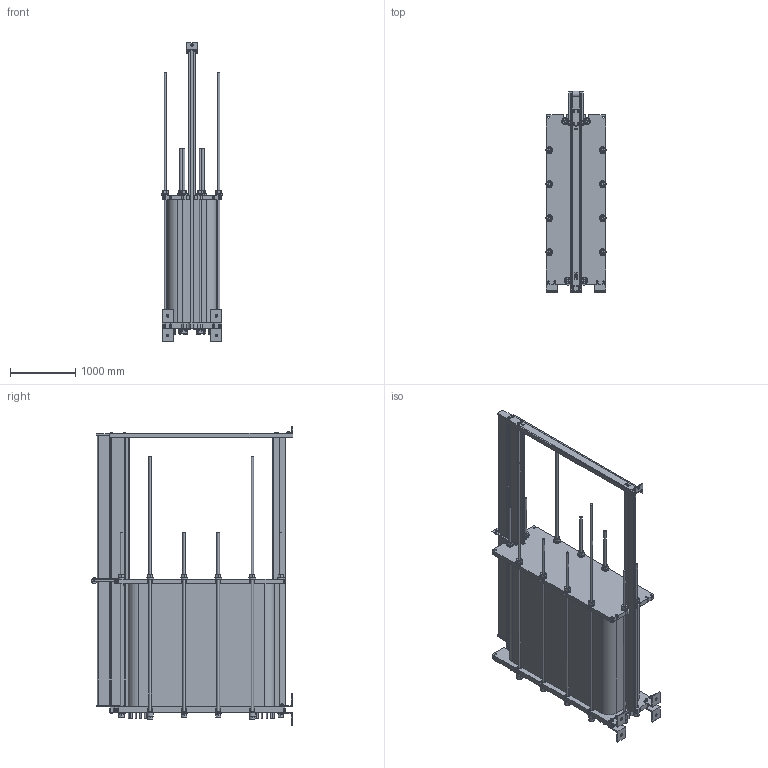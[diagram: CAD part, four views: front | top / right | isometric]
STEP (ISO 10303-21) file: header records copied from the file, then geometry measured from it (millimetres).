
FILE_DESCRIPTION((''),'2;1');
FILE_NAME('C:\temp\MX25_FG_LC4200_7_02_Rev0.stp','2009-09-27T06:53:01',('CNSHFLU'),(''),'Autodesk Inventor 2008','Autodesk Inventor 2008','');
FILE_SCHEMA(('AUTOMOTIVE_DESIGN { 1 2 10303 214 0 1 1 1 }'));
Length unit declared in the file: millimetre
Products named in the file (1): MX25
Bounding box: 925 x 3093.5 x 4585.5 mm (x, y, z)
Volume: 3289944192.3 mm3; surface area: 45878675.2 mm2
Topology: 1 solids, 17 shells, 2848 faces, 6761 edges, 4217 vertices
Faces by surface type: plane 1397, cone 728, cylinder 636, bspline 87
Full cylindrical faces by diameter (mm): 9.45 x4, 12 x12, 13 x10, 14 x2, 18 x4, 20 x63, 21 x13, 22 x5, 24 x20, 25 x8, 26 x4, 30 x2, 34.295 x4, 37 x10, 39 x24, 40 x5, 44 x8, 53 x24, 63 x12, 90 x9, 96 x4, 105 x12, 229 x4, 230 x4
Entity records: 79191 total; most frequent: CARTESIAN_POINT 17054, DIRECTION 12826, ORIENTED_EDGE 12636, EDGE_CURVE 6318, AXIS2_PLACEMENT_3D 4994, VERTEX_POINT 4166, EDGE_LOOP 3590, FACE_OUTER_BOUND 2848
